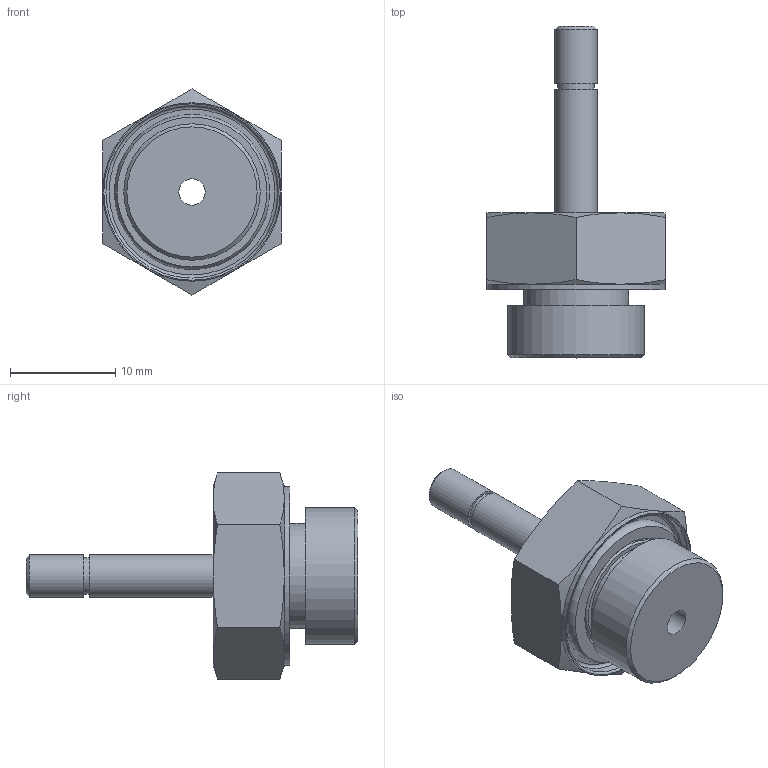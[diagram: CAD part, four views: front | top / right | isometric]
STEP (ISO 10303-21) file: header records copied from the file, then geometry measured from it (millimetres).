
FILE_DESCRIPTION(/* description */ (''),/* implementation_level */ '2;1');
FILE_NAME(/* name */ 'LXH16 0004 B2.stp',/* time_stamp */ '2026-04-29T14:45:20+02:00',/* author */ ('freju'),/* organization */ (''),/* preprocessor_version */ 'ST-DEVELOPER v20.1',/* originating_system */ 'Autodesk Inventor 2026',/* authorisation */ '');
FILE_SCHEMA (('AUTOMOTIVE_DESIGN { 1 0 10303 214 3 1 1 }'));
Length unit declared in the file: millimetre
Products named in the file (4): LXH16 0004 B2; LXH16 0004 B2_1; O-Ring; ISO 3601-1 - A 0112 G
Assembly tree (3 placements, depth 3):
  LXH16 0004 B2
    LXH16 0004 B2_1
    O-Ring
      ISO 3601-1 - A 0112 G
Bounding box: 17 x 31.6 x 19.63 mm (x, y, z)
Volume: 2597.5 mm3; surface area: 2041.8 mm2
Topology: 2 solids, 2 shells, 46 faces, 92 edges, 57 vertices
Faces by surface type: plane 17, cone 14, cylinder 9, torus 6
Full cylindrical faces by diameter (mm): 2.5 x1, 3.5 x1, 4 x2, 10 x1, 11.2 x1, 13 x1, 16.4 x1, 17 x1
Entity records: 1329 total; most frequent: CARTESIAN_POINT 250, DIRECTION 225, ORIENTED_EDGE 184, AXIS2_PLACEMENT_3D 104, EDGE_CURVE 92, EDGE_LOOP 57, VERTEX_POINT 57, CIRCLE 51
